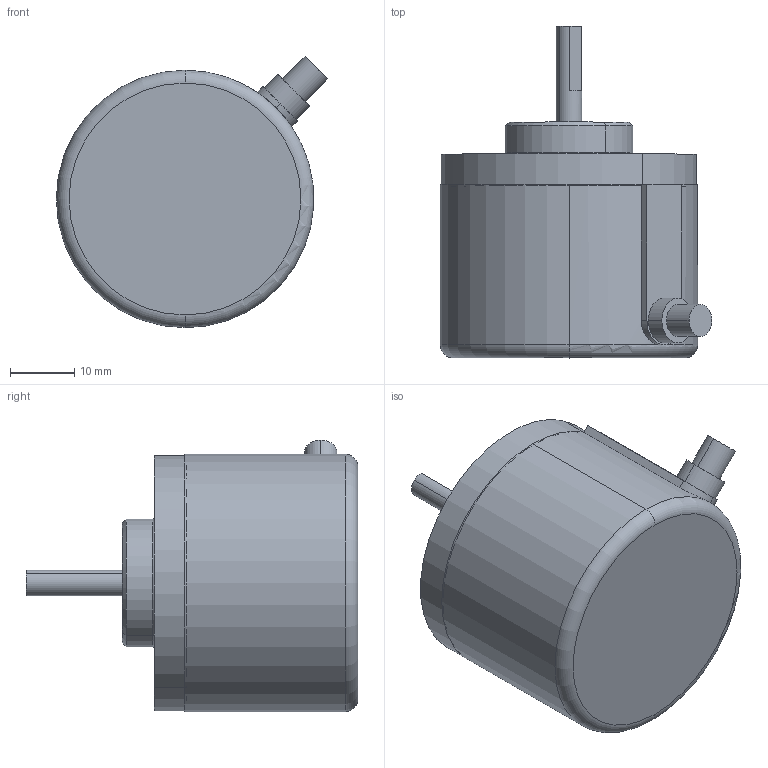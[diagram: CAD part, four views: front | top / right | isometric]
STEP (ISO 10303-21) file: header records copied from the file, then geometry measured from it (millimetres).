
FILE_DESCRIPTION (( 'STEP AP214' ), '1' );
FILE_NAME ('MOL40.STEP', '2012-07-05T10:00:27', ( '' ), ( '' ), 'SwSTEP 2.0', 'SolidWorks 2012', '' );
FILE_SCHEMA (( 'AUTOMOTIVE_DESIGN' ));
Length unit declared in the file: millimetre
Products named in the file (5): Lock washer DIN 6799 - 3.2_PreviewCfg; MOL30_Welle; MOL40_Basis; MOL40 DECKEL; MOL40
Assembly tree (4 placements, depth 2):
  MOL40
    MOL40 DECKEL
    MOL40_Basis
    MOL30_Welle
    Lock washer DIN 6799 - 3.2_PreviewCfg
Bounding box: 42.37 x 51.8 x 42.37 mm (x, y, z)
Volume: 42381.5 mm3; surface area: 10017.3 mm2
Topology: 4 solids, 4 shells, 77 faces, 178 edges, 116 vertices
Faces by surface type: cylinder 45, plane 26, torus 4, cone 2
Entity records: 2699 total; most frequent: DIRECTION 444, CARTESIAN_POINT 412, ORIENTED_EDGE 356, AXIS2_PLACEMENT_3D 184, EDGE_CURVE 178, VERTEX_POINT 116, CIRCLE 100, EDGE_LOOP 90
